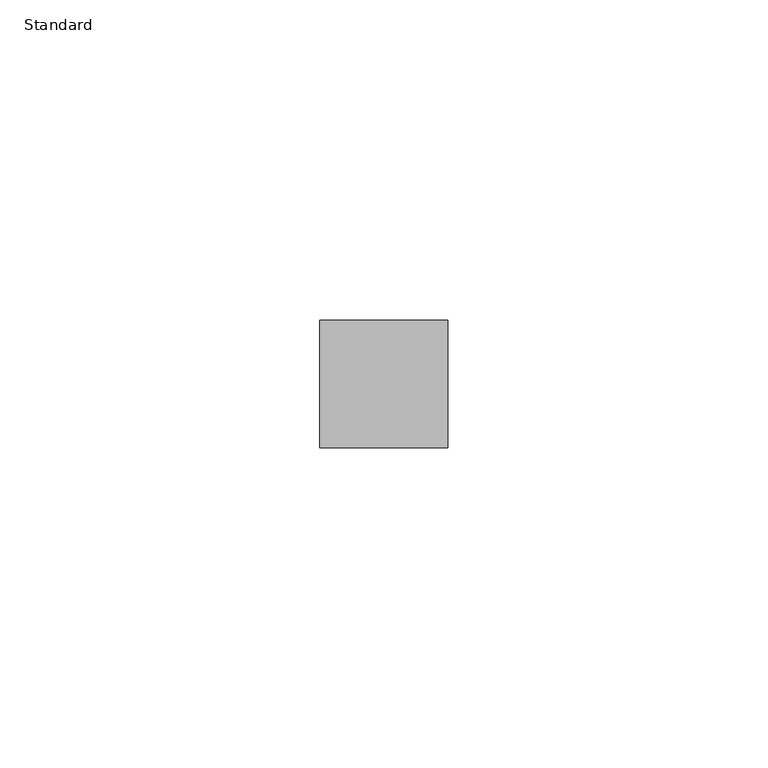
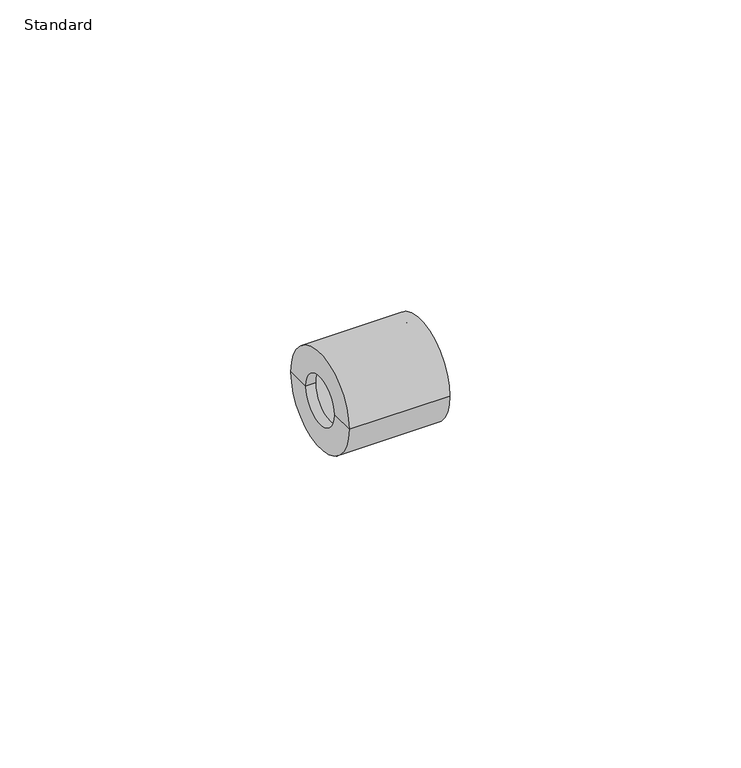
"""IFC4 building model written with IfcOpenShell, lengths in millimetres: pipe fitting geometry, Durapipe_PipeFitting_PVC_ReducingBush : Standard."""

from ifc_helpers import new_model, si_unit, frame, origin, place, context, project, spatial, polyline, circle_curve, source, transform, mapped, element, save
from ifc_brep_helpers import plane_surface, cylinder_surface, revolved_surface, advanced_brep


def standard_f4d9acf0(model_context):
    return source(origin(), model_context, "Body", "AdvancedBrep", [
        advanced_brep(
        [(-2.0, -5.0, 0.0), (-2.0, 5.0, 0.0), (-2.0, 10.0, 0.0), (-2.0, -10.0, 0.0), (0.0, -5.0, 0.0), (0.0, 5.0, 0.0), (0.0, -8.0, 0.0), (0.0, 8.0, 0.0), (18.0, -8.0, 0.0), (18.0, 8.0, 0.0), (18.0, -10.0, 0.0), (18.0, 10.0, 0.0)],
        [
            (0, 1, circle_curve(frame((-2.0, 0.0, 0.0), z_axis=(1.0, 0.0, 0.0), x_axis=(0.0, 1.0, 0.0)), 5.0)),
            (1, 2),
            (2, 3, circle_curve(frame((-2.0, 0.0, 0.0), z_axis=(-1.0, 0.0, 0.0), x_axis=(0.0, 1.0, 0.0)), 10.0)),
            (3, 0),
            (1, 0, circle_curve(frame((-2.0, 0.0, 0.0), z_axis=(1.0, 0.0, 0.0), x_axis=(0.0, 1.0, 0.0)), 5.0)),
            (3, 2, circle_curve(frame((-2.0, 0.0, 0.0), z_axis=(-1.0, 0.0, 0.0), x_axis=(0.0, 1.0, 0.0)), 10.0)),
            (4, 5, circle_curve(frame((0.0, 0.0, 0.0), z_axis=(1.0, 0.0, 0.0), x_axis=(0.0, 1.0, 0.0)), 5.0)),
            (5, 1),
            (0, 4),
            (5, 4, circle_curve(frame((0.0, 0.0, 0.0), z_axis=(1.0, 0.0, 0.0), x_axis=(0.0, 1.0, 0.0)), 5.0)),
            (6, 7, circle_curve(frame((0.0, 0.0, 0.0), z_axis=(1.0, 0.0, 0.0), x_axis=(0.0, 1.0, 0.0)), 8.0)),
            (7, 5),
            (4, 6),
            (7, 6, circle_curve(frame((0.0, 0.0, 0.0), z_axis=(1.0, 0.0, 0.0), x_axis=(0.0, 1.0, 0.0)), 8.0)),
            (8, 9, circle_curve(frame((18.0, 0.0, 0.0), z_axis=(1.0, 0.0, 0.0), x_axis=(0.0, 1.0, 0.0)), 8.0)),
            (9, 7),
            (6, 8),
            (9, 8, circle_curve(frame((18.0, 0.0, 0.0), z_axis=(1.0, 0.0, 0.0), x_axis=(0.0, 1.0, 0.0)), 8.0)),
            (10, 11, circle_curve(frame((18.0, 0.0, 0.0), z_axis=(1.0, 0.0, 0.0), x_axis=(0.0, 1.0, 0.0)), 10.0)),
            (11, 9),
            (8, 10),
            (11, 10, circle_curve(frame((18.0, 0.0, 0.0), z_axis=(1.0, 0.0, 0.0), x_axis=(0.0, 1.0, 0.0)), 10.0)),
            (2, 11),
            (10, 3),
        ],
        [
            plane_surface(frame((-2.0, 0.0, 0.0), z_axis=(-1.0, 0.0, 0.0), x_axis=(0.0, 1.0, 0.0))),
            revolved_surface(polyline([(-2.0, 5.0, 0.0), (0.0, 5.0, 0.0)]), (2004.0, 0.0, 0.0), (-1.0, 0.0, 0.0)),
            plane_surface(frame((0.0, 0.0, 0.0), z_axis=(1.0, 0.0, 0.0), x_axis=(0.0, 1.0, 0.0))),
            revolved_surface(polyline([(0.0, 8.0, 0.0), (18.0, 8.0, 0.0)]), (2004.0, 0.0, 0.0), (-1.0, 0.0, 0.0)),
            plane_surface(frame((18.0, 0.0, 0.0), z_axis=(1.0, 0.0, 0.0), x_axis=(0.0, 1.0, 0.0))),
            cylinder_surface(frame((2004.0, 0.0, 0.0), z_axis=(-1.0, 0.0, 0.0), x_axis=(0.0, 1.0, 0.0)), 10.0),
        ],
        [
            (0, [[1, 2, 3, 4]]),
            (0, [[5, -4, 6, -2]]),
            (1, [[7, 8, -1, 9]]),
            (1, [[10, -9, -5, -8]]),
            (2, [[11, 12, -7, 13]]),
            (2, [[14, -13, -10, -12]]),
            (3, [[15, 16, -11, 17]]),
            (3, [[18, -17, -14, -16]]),
            (4, [[19, 20, -15, 21]]),
            (4, [[22, -21, -18, -20]]),
            (5, [[-3, 23, -19, 24]]),
            (5, [[-6, -24, -22, -23]]),
        ],
    ),
    ])


if __name__ == "__main__":
    model = new_model("IFC4")
    model_context = context("Model", 3, world=origin())
    ifc_project = project(units=[si_unit("LENGTHUNIT", "METRE", prefix="MILLI")], contexts=[model_context])
    site = spatial("IfcSite", under=ifc_project)
    building = spatial("IfcBuilding", under=site)
    placement = place(None, origin())
    standard_shape = standard_f4d9acf0(model_context)
    element("IfcPipeFitting", 1, ObjectType="Durapipe_PipeFitting_PVC_ReducingBush : Standard", at=placement, inside=building, context=model_context, shape_type="MappedRepresentation", body=[
        mapped(standard_shape, transform((0.0, 0.0, 0.0), x_axis=(1.0, 0.0, 0.0), y_axis=(0.0, 1.0, 0.0), z_axis=(0.0, 0.0, 1.0))),
    ])
    save(model, "model.ifc")
